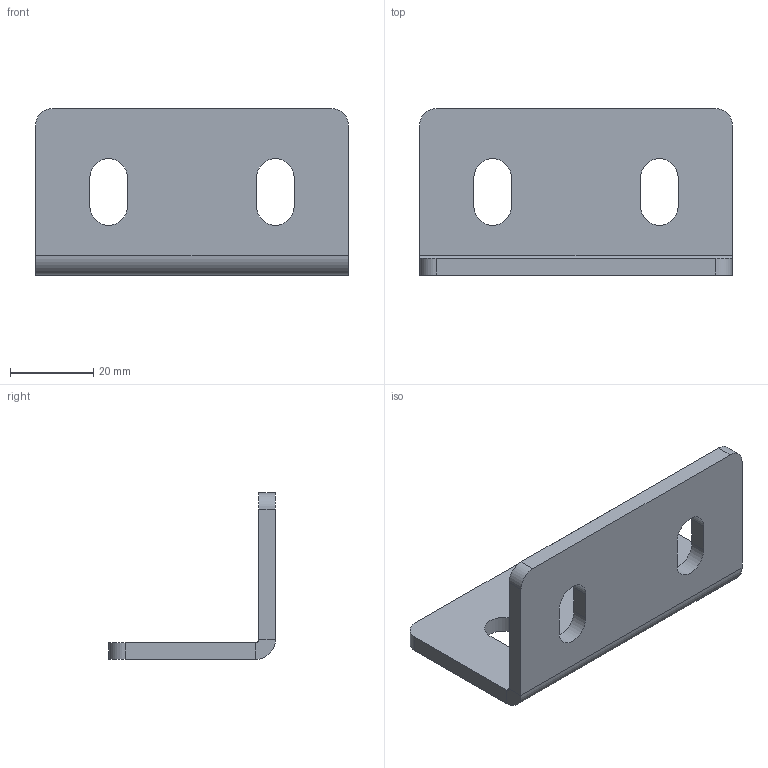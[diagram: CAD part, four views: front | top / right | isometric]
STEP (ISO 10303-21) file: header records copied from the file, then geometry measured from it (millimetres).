
FILE_DESCRIPTION (( 'STEP AP203' ), '1' );
FILE_NAME ('DSB4075-8.STEP', '2019-01-09T02:40:22', ( '' ), ( '' ), 'SwSTEP 2.0', 'SolidWorks 2012', '' );
FILE_SCHEMA (( 'CONFIG_CONTROL_DESIGN' ));
Length unit declared in the file: millimetre
Products named in the file (1): DSB4075-8
Bounding box: 75 x 40 x 40 mm (x, y, z)
Volume: 20366.8 mm3; surface area: 12030.9 mm2
Topology: 1 solids, 1 shells, 36 faces, 94 edges, 60 vertices
Faces by surface type: plane 20, cylinder 16
Entity records: 1199 total; most frequent: DIRECTION 200, CARTESIAN_POINT 191, ORIENTED_EDGE 188, EDGE_CURVE 94, AXIS2_PLACEMENT_3D 69, LINE 62, VECTOR 62, VERTEX_POINT 60
